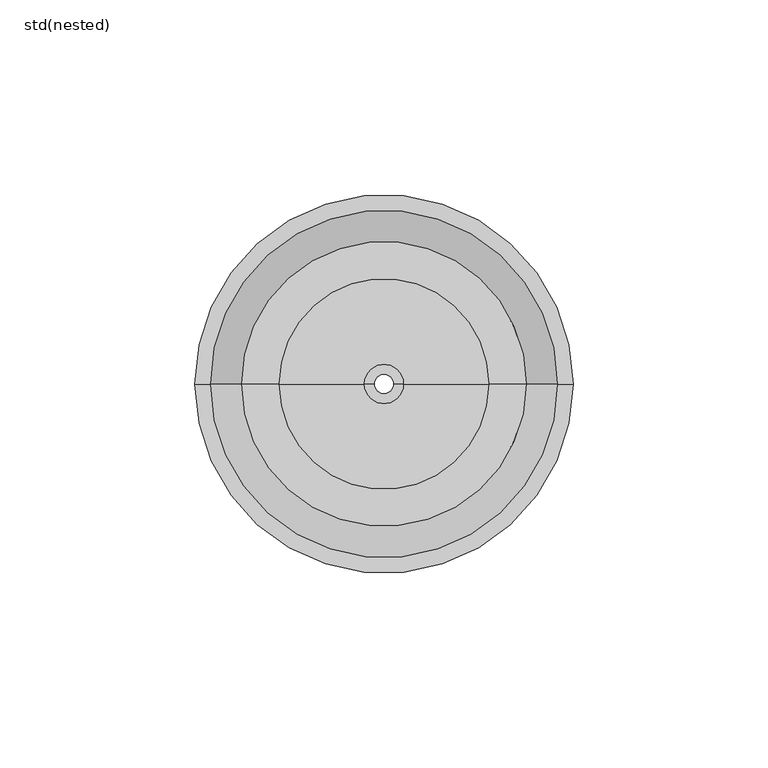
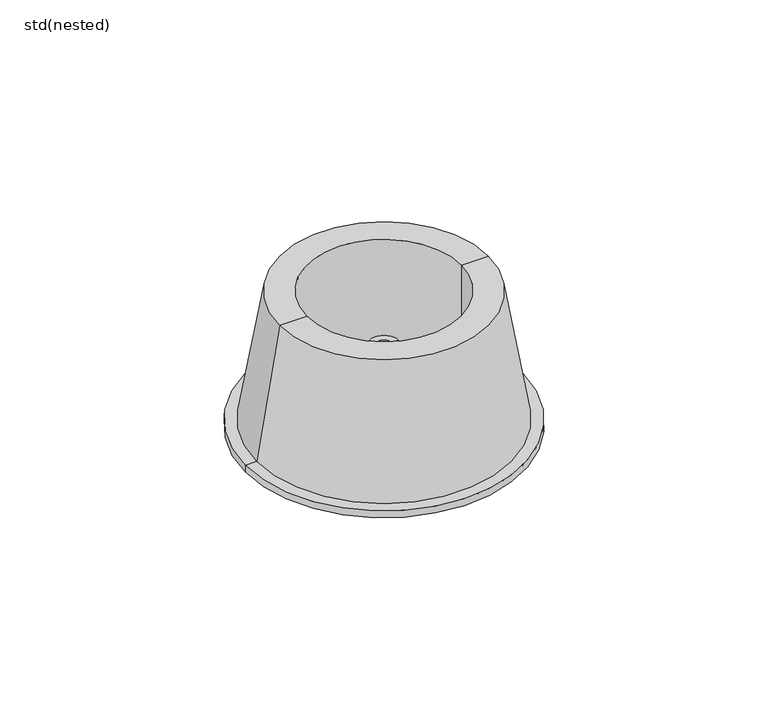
"""IFC4 building model written with IfcOpenShell, lengths in millimetres: sanitary terminal geometry, ZZZ_do not use_PF_ST_UN_casing bell_ACO : std(nested)."""

import ifcopenshell
import ifcopenshell.guid

model = None  # the IFC model being written
_history = None  # IfcOwnerHistory: only IFC2X3 demands one
_inside = {}  # id of a spatial element -> (the spatial element, [elements in it])
_under = {}  # id of a project, library or spatial element -> (it, [spatial elements below it])
_declared = {}  # id of a project -> (the project, [libraries it declares])
_typed = {}  # id of a type object -> (the type object, [elements of that type])
_made_of = {}  # id of a material, layer set ... -> (it, [elements and type objects made of it])


def new_model(schema):
    """Start an empty IFC model of exactly this schema.

    Asked for "IFC4X3", IfcOpenShell would pick the latest addendum, in which some entities
    have other attributes; the version numbers below select the first issue.
    IFC2X3 requires an IfcOwnerHistory on every rooted entity: one is made here for all.
    """
    global model, _history
    if schema == "IFC4X3":
        model = ifcopenshell.file(schema_version=(4, 3, 0, 0))
    else:
        model = ifcopenshell.file(schema=schema)
    _inside.clear()
    _under.clear()
    _declared.clear()
    _typed.clear()
    _made_of.clear()
    _history = None
    if model.schema == "IFC2X3":
        org = make("IfcOrganization", Name="unknown")
        user = make(
            "IfcPersonAndOrganization",
            ThePerson=make("IfcPerson", FamilyName="unknown"),
            TheOrganization=org,
        )
        app = make(
            "IfcApplication",
            ApplicationDeveloper=org,
            Version="unknown",
            ApplicationFullName="unknown",
            ApplicationIdentifier="unknown",
        )
        _history = make(
            "IfcOwnerHistory",
            OwningUser=user,
            OwningApplication=app,
            ChangeAction="ADDED",
            CreationDate=0,
        )
    return model


def make(cls, **values):
    """One entity of the class cls with the attributes given. An attribute that is None is left unset."""
    return model.create_entity(
        cls, **{name: value for name, value in values.items() if value is not None}
    )


def rooted(cls, **values):
    """An entity with a GlobalId (a new one), such as an element, a storey or a relation."""
    return make(cls, GlobalId=ifcopenshell.guid.new(), OwnerHistory=_history, **values)


def si_unit(unit_type, name, prefix=None):
    """IfcSIUnit, for example si_unit("LENGTHUNIT", "METRE", prefix="MILLI")."""
    return make("IfcSIUnit", UnitType=unit_type, Prefix=prefix, Name=name)


def assignment(units):
    """IfcUnitAssignment: the units of a project."""
    return None if units is None else make("IfcUnitAssignment", Units=units)


def point(xyz):
    """IfcCartesianPoint."""
    return None if xyz is None else make("IfcCartesianPoint", Coordinates=xyz)


def direction(xyz):
    """IfcDirection."""
    return None if xyz is None else make("IfcDirection", DirectionRatios=xyz)


def frame(location, z_axis=None, x_axis=None):
    """IfcAxis2Placement3D, a coordinate frame: its origin and axes. An axis left out is left unset."""
    return make(
        "IfcAxis2Placement3D",
        Location=point(location),
        Axis=direction(z_axis),
        RefDirection=direction(x_axis),
    )


def origin():
    """The frame at (0, 0, 0) with its axes left unset."""
    return frame((0.0, 0.0, 0.0))


def place(relative_to, where):
    """IfcLocalPlacement: puts the frame where relative to a parent placement (None: the world)."""
    return make(
        "IfcLocalPlacement", PlacementRelTo=relative_to, RelativePlacement=where
    )


def context(
    kind, dimensions, precision=None, world=None, true_north=None, identifier=None
):
    """IfcGeometricRepresentationContext, for example the 3D "Model" context."""
    return make(
        "IfcGeometricRepresentationContext",
        ContextIdentifier=identifier,
        ContextType=kind,
        CoordinateSpaceDimension=dimensions,
        Precision=precision,
        WorldCoordinateSystem=world,
        TrueNorth=true_north,
    )


def project(units=None, contexts=None):
    """IfcProject with its units and contexts."""
    return rooted(
        "IfcProject",
        Name="project",
        RepresentationContexts=contexts,
        UnitsInContext=assignment(units),
    )


def spatial(cls, under=None, at=None, **own):
    """A site, building, storey or space (cls), placed at a placement, below another one or the project."""
    s = rooted(cls, ObjectPlacement=at, **own)
    if under is not None:
        _under.setdefault(under.id(), (under, []))[1].append(s)
    return s


def polyline(points):
    """IfcPolyline through the points."""
    return make("IfcPolyline", Points=[point(p) for p in points])


def circle_curve(where, radius):
    """IfcCircle in the frame where."""
    return make("IfcCircle", Position=where, Radius=radius)


def shape(context_of_items, identifier, shape_type, items):
    """IfcShapeRepresentation: the items that make up one representation, for example the "Body"."""
    return make(
        "IfcShapeRepresentation",
        ContextOfItems=context_of_items,
        RepresentationIdentifier=identifier,
        RepresentationType=shape_type,
        Items=items,
    )


def source(mapping_origin, context_of_items, identifier, shape_type, items):
    """IfcRepresentationMap: a shape defined once, which mapped items show again and again."""
    return make(
        "IfcRepresentationMap",
        MappingOrigin=mapping_origin,
        MappedRepresentation=shape(context_of_items, identifier, shape_type, items),
    )


def transform(
    local_origin,
    x_axis=None,
    y_axis=None,
    z_axis=None,
    scale=None,
    scale2=None,
    scale3=None,
    uniform=True,
):
    """IfcCartesianTransformationOperator3D, or its non-uniform kind. x_axis, y_axis, z_axis: its Axis1, 2, 3."""
    if uniform:
        return make(
            "IfcCartesianTransformationOperator3D",
            Axis1=direction(x_axis),
            Axis2=direction(y_axis),
            LocalOrigin=point(local_origin),
            Scale=scale,
            Axis3=direction(z_axis),
        )
    return make(
        "IfcCartesianTransformationOperator3DnonUniform",
        Axis1=direction(x_axis),
        Axis2=direction(y_axis),
        LocalOrigin=point(local_origin),
        Scale=scale,
        Axis3=direction(z_axis),
        Scale2=scale2,
        Scale3=scale3,
    )


def mapped(mapping_source, mapping_target):
    """IfcMappedItem: shows the shape of a source again, moved by a transform."""
    return make(
        "IfcMappedItem", MappingSource=mapping_source, MappingTarget=mapping_target
    )


def made_of(thing, what):
    """Note that an element or type object is made of a material, layer set ...; save() writes the relation."""
    if what is not None:
        _made_of.setdefault(what.id(), (what, []))[1].append(thing)
    return thing


def element(
    cls,
    number,
    at=None,
    inside=None,
    cuts=None,
    type_object=None,
    material=None,
    context=None,
    identifier="Body",
    shape_type=None,
    held_by="IfcProductDefinitionShape",
    body=None,
    shapes=None,
    **own,
):
    """One element of the class cls, such as IfcWall. Its Tag is "e" and its number.

    at: its placement. inside: the storey or other place that contains it. cuts: it is an
    opening in that element (IfcRelVoidsElement). A single representation is given by context,
    identifier, shape_type and body (its items); several are given by shapes. held_by: the class
    of the entity that holds the representations. save() writes the other relations.
    """
    e = rooted(cls, Tag="e%d" % number, ObjectPlacement=at, **own)
    if body is not None:
        shapes = [shape(context, identifier, shape_type, body)]
    if shapes is not None:
        e.Representation = make(held_by, Representations=shapes)
    if inside is not None:
        _inside.setdefault(inside.id(), (inside, []))[1].append(e)
    if cuts is not None:
        rooted(
            "IfcRelVoidsElement", RelatingBuildingElement=cuts, RelatedOpeningElement=e
        )
    if type_object is not None:
        _typed.setdefault(type_object.id(), (type_object, []))[1].append(e)
    return made_of(e, material)


def aggregate(whole, parts):
    """IfcRelAggregates: a whole, such as a stair, and the parts it consists of."""
    return rooted("IfcRelAggregates", RelatingObject=whole, RelatedObjects=parts)


def save(model, path):
    """Write the relations noted so far, then the file.

    IfcRelAggregates (storeys below a building ...), IfcRelContainedInSpatialStructure (elements
    in a storey), IfcRelDefinesByType, IfcRelAssociatesMaterial and IfcRelDeclares: one each for
    every whole, place, type object, material and project.
    """
    for whole, parts in _under.values():
        aggregate(whole, parts)
    for where, things in _inside.values():
        rooted(
            "IfcRelContainedInSpatialStructure",
            RelatedElements=things,
            RelatingStructure=where,
        )
    for kind, things in _typed.values():
        rooted("IfcRelDefinesByType", RelatedObjects=things, RelatingType=kind)
    for what, things in _made_of.values():
        rooted("IfcRelAssociatesMaterial", RelatedObjects=things, RelatingMaterial=what)
    for by, libraries in _declared.values():
        rooted("IfcRelDeclares", RelatingContext=by, RelatedDefinitions=libraries)
    model.write(path)


def plane_surface(at):
    """IfcPlane: the flat surface through the origin of the frame at, square to its z axis."""
    return make("IfcPlane", Position=at)


def cylinder_surface(at, radius):
    """IfcCylindricalSurface: all points at the distance radius from the z axis of the frame at."""
    return make("IfcCylindricalSurface", Position=at, Radius=radius)


def revolved_surface(curve, axis_point, axis_direction):
    """IfcSurfaceOfRevolution: the curve turned about the line through axis_point along axis_direction."""
    return make(
        "IfcSurfaceOfRevolution",
        SweptCurve=make("IfcArbitraryOpenProfileDef", ProfileType="CURVE", Curve=curve),
        AxisPosition=make("IfcAxis1Placement", Location=point(axis_point), Axis=direction(axis_direction)),
    )


def advanced_brep(points, edges, surfaces, faces):
    """IfcAdvancedBrep: a solid bounded by faces that lie on surfaces and meet in shared edges.

    An edge is (start, end): straight between two places in points (the first is 0);
    or (start, end, curve); or (start, end, curve, False) where it runs against its curve.
    A face is (place in surfaces, loops), or (place, loops, False) where it looks against
    its surface's normal. A loop lists edges by number (the first is 1), with a minus sign
    where the edge is run from its end to its start. The first loop is the outer one.
    """
    corners = [point(p) for p in points]
    vertices = [make("IfcVertexPoint", VertexGeometry=c) for c in corners]
    made = []
    for start, end, *more in edges:
        made.append(
            make(
                "IfcEdgeCurve",
                EdgeStart=vertices[start],
                EdgeEnd=vertices[end],
                EdgeGeometry=more[0] if more else make("IfcPolyline", Points=[corners[start], corners[end]]),
                SameSense=more[1] if len(more) > 1 else True,
            )
        )
    hull = []
    for where, loops, *sense in faces:
        bounds = []
        for j, loop in enumerate(loops):
            ring = [make("IfcOrientedEdge", EdgeElement=made[abs(k) - 1], Orientation=k > 0) for k in loop]
            bounds.append(
                make(
                    "IfcFaceOuterBound" if j == 0 else "IfcFaceBound",
                    Bound=make("IfcEdgeLoop", EdgeList=ring),
                    Orientation=True,
                )
            )
        hull.append(make("IfcAdvancedFace", Bounds=bounds, FaceSurface=surfaces[where], SameSense=sense[0] if sense else True))
    return make("IfcAdvancedBrep", Outer=make("IfcClosedShell", CfsFaces=hull))


def std_nested_b578d51b(model_context):
    return source(origin(), model_context, "Body", "AdvancedBrep", [
        advanced_brep(
        [(48.5, 0.0, -50.0), (-48.5, 0.0, -50.0), (-48.5, 0.0, -47.5), (48.5, 0.0, -47.5), (2.5, 0.0, -50.0), (-2.5, 0.0, -50.0), (27.0, 0.0, 0.0), (-27.0, 0.0, 0.0), (-27.0, 0.0, -47.5), (27.0, 0.0, -47.5), (36.5, 0.0, 0.0), (-36.5, 0.0, 0.0), (44.5, 0.0, -47.5), (-44.5, 0.0, -47.5), (2.5, 0.0, -20.0), (-2.5, 0.0, -20.0), (5.0, 0.0, -20.0), (-5.0, 0.0, -20.0), (5.0, 0.0, -47.5), (-5.0, 0.0, -47.5)],
        [
            (0, 1, circle_curve(frame((0.0, 0.0, -50.0), z_axis=(0.0, 0.0, 1.0), x_axis=(-1.0, 0.0, 0.0)), 48.5)),
            (1, 2),
            (2, 3, circle_curve(frame((0.0, 0.0, -47.5), z_axis=(0.0, 0.0, -1.0), x_axis=(-1.0, 0.0, 0.0)), 48.5)),
            (3, 0),
            (1, 0, circle_curve(frame((0.0, 0.0, -50.0), z_axis=(0.0, 0.0, 1.0), x_axis=(-1.0, 0.0, 0.0)), 48.5)),
            (3, 2, circle_curve(frame((0.0, 0.0, -47.5), z_axis=(0.0, 0.0, -1.0), x_axis=(-1.0, 0.0, 0.0)), 48.5)),
            (4, 5, circle_curve(frame((0.0, 0.0, -50.0), z_axis=(0.0, 0.0, 1.0), x_axis=(-1.0, 0.0, 0.0)), 2.5)),
            (5, 1),
            (0, 4),
            (5, 4, circle_curve(frame((0.0, 0.0, -50.0), z_axis=(0.0, 0.0, 1.0), x_axis=(-1.0, 0.0, 0.0)), 2.5)),
            (6, 7, circle_curve(frame((0.0, 0.0, 0.0), z_axis=(0.0, 0.0, 1.0), x_axis=(-1.0, 0.0, 0.0)), 27.0)),
            (7, 8),
            (8, 9, circle_curve(frame((0.0, 0.0, -47.5), z_axis=(0.0, 0.0, -1.0), x_axis=(-1.0, 0.0, 0.0)), 27.0)),
            (9, 6),
            (7, 6, circle_curve(frame((0.0, 0.0, 0.0), z_axis=(0.0, 0.0, 1.0), x_axis=(-1.0, 0.0, 0.0)), 27.0)),
            (9, 8, circle_curve(frame((0.0, 0.0, -47.5), z_axis=(0.0, 0.0, -1.0), x_axis=(-1.0, 0.0, 0.0)), 27.0)),
            (10, 11, circle_curve(frame((0.0, 0.0, 0.0), z_axis=(0.0, 0.0, 1.0), x_axis=(-1.0, 0.0, 0.0)), 36.5)),
            (11, 7),
            (6, 10),
            (11, 10, circle_curve(frame((0.0, 0.0, 0.0), z_axis=(0.0, 0.0, 1.0), x_axis=(-1.0, 0.0, 0.0)), 36.5)),
            (12, 13, circle_curve(frame((0.0, 0.0, -47.5), z_axis=(0.0, 0.0, 1.0), x_axis=(-1.0, 0.0, 0.0)), 44.5)),
            (13, 11),
            (10, 12),
            (13, 12, circle_curve(frame((0.0, 0.0, -47.5), z_axis=(0.0, 0.0, 1.0), x_axis=(-1.0, 0.0, 0.0)), 44.5)),
            (2, 13),
            (12, 3),
            (14, 15, circle_curve(frame((0.0, 0.0, -20.0), z_axis=(0.0, 0.0, 1.0), x_axis=(-1.0, 0.0, 0.0)), 2.5)),
            (15, 5),
            (4, 14),
            (15, 14, circle_curve(frame((0.0, 0.0, -20.0), z_axis=(0.0, 0.0, 1.0), x_axis=(-1.0, 0.0, 0.0)), 2.5)),
            (16, 17, circle_curve(frame((0.0, 0.0, -20.0), z_axis=(0.0, 0.0, 1.0), x_axis=(-1.0, 0.0, 0.0)), 5.0)),
            (17, 15),
            (14, 16),
            (17, 16, circle_curve(frame((0.0, 0.0, -20.0), z_axis=(0.0, 0.0, 1.0), x_axis=(-1.0, 0.0, 0.0)), 5.0)),
            (18, 19, circle_curve(frame((0.0, 0.0, -47.5), z_axis=(0.0, 0.0, 1.0), x_axis=(-1.0, 0.0, 0.0)), 5.0)),
            (19, 17),
            (16, 18),
            (19, 18, circle_curve(frame((0.0, 0.0, -47.5), z_axis=(0.0, 0.0, 1.0), x_axis=(-1.0, 0.0, 0.0)), 5.0)),
            (8, 19),
            (18, 9),
        ],
        [
            cylinder_surface(frame((0.0, 0.0, 0.0), z_axis=(0.0, 0.0, -1.0), x_axis=(-1.0, 0.0, 0.0)), 48.5),
            plane_surface(frame((0.0, 0.0, -50.0), z_axis=(0.0, 0.0, -1.0), x_axis=(-1.0, 0.0, 0.0))),
            revolved_surface(polyline([(-27.0, 0.0, -47.5), (-27.0, 0.0, 0.0)]), (0.0, 0.0, 0.0), (0.0, 0.0, -1.0)),
            plane_surface(frame((0.0, 0.0, 0.0), z_axis=(0.0, 0.0, 1.0), x_axis=(-1.0, 0.0, 0.0))),
            revolved_surface(polyline([(-36.5, 0.0, 0.0), (-44.5, 0.0, -47.5)]), (0.0, 0.0, 0.0), (0.0, 0.0, -1.0)),
            plane_surface(frame((0.0, 0.0, -47.5), z_axis=(0.0, 0.0, 1.0), x_axis=(-1.0, 0.0, 0.0))),
            revolved_surface(polyline([(-2.5, 0.0, -50.0), (-2.5, 0.0, -20.0)]), (0.0, 0.0, 0.0), (0.0, 0.0, -1.0)),
            plane_surface(frame((0.0, 0.0, -20.0), z_axis=(0.0, 0.0, 1.0), x_axis=(-1.0, 0.0, 0.0))),
            cylinder_surface(frame((0.0, 0.0, 0.0), z_axis=(0.0, 0.0, -1.0), x_axis=(-1.0, 0.0, 0.0)), 5.0),
        ],
        [
            (0, [[1, 2, 3, 4]]),
            (0, [[5, -4, 6, -2]]),
            (1, [[7, 8, -1, 9]]),
            (1, [[10, -9, -5, -8]]),
            (2, [[11, 12, 13, 14]]),
            (2, [[15, -14, 16, -12]]),
            (3, [[17, 18, -11, 19]]),
            (3, [[20, -19, -15, -18]]),
            (4, [[21, 22, -17, 23]]),
            (4, [[24, -23, -20, -22]]),
            (5, [[-3, 25, -21, 26]]),
            (5, [[-6, -26, -24, -25]]),
            (6, [[27, 28, -7, 29]]),
            (6, [[30, -29, -10, -28]]),
            (7, [[31, 32, -27, 33]]),
            (7, [[34, -33, -30, -32]]),
            (8, [[35, 36, -31, 37]]),
            (8, [[38, -37, -34, -36]]),
            (5, [[-13, 39, -35, 40]]),
            (5, [[-16, -40, -38, -39]]),
        ],
    ),
    ])


if __name__ == "__main__":
    model = new_model("IFC4")
    model_context = context("Model", 3, world=origin())
    ifc_project = project(units=[si_unit("LENGTHUNIT", "METRE", prefix="MILLI")], contexts=[model_context])
    site = spatial("IfcSite", under=ifc_project)
    building = spatial("IfcBuilding", under=site)
    placement = place(None, origin())
    std_nested_shape = std_nested_b578d51b(model_context)
    element("IfcSanitaryTerminal", 1, ObjectType="ZZZ_do not use_PF_ST_UN_casing bell_ACO : std(nested)", at=placement, inside=building, context=model_context, shape_type="MappedRepresentation", body=[
        mapped(std_nested_shape, transform((0.0, 0.0, 0.0), x_axis=(1.0, 0.0, 0.0), y_axis=(0.0, 1.0, 0.0), z_axis=(0.0, 0.0, 1.0))),
    ])
    save(model, "model.ifc")
